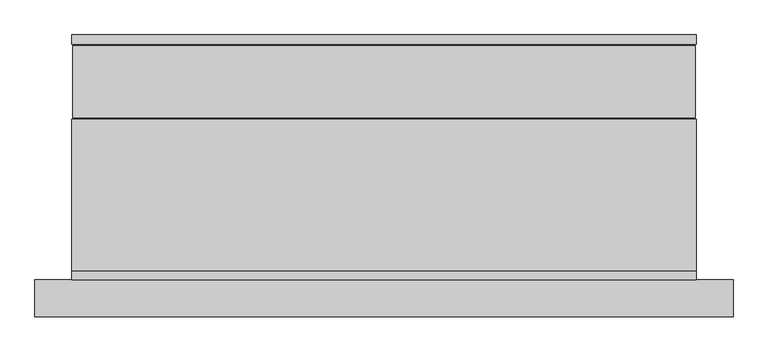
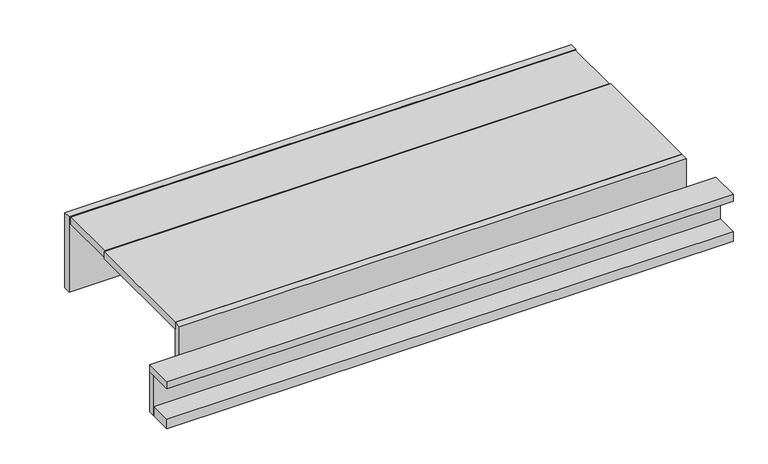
"""IFC4 building model written with IfcOpenShell, lengths in millimetres: proxy geometry, ELEVATE^ADMIN_51x23x8 SIDE WIRE WALL-LIFT COLUMN RIGHT."""

from ifc_helpers import new_model, si_unit, frame, origin, place, context, project, spatial, polyline, outline, extrude, source, transform, mapped, element, save


def generic_models_46a064e5(model_context):
    return source(origin(), model_context, "Body", "SweptSolid", [
        extrude(outline(polyline([(4267.2, 0.0), (2819.4, 0.0), (2819.4, 76.2), (4267.2, 76.2), (4267.2, 0.0)])), frame((0.0, 0.0, -19.05), z_axis=(0.0, 0.0, 1.0), x_axis=(1.0, 0.0, 0.0)), (0.0, 0.0, 1.0), 19.05),
        extrude(outline(polyline([(2897.98125, 411.95625), (2897.98125, 561.975), (4188.61875, 561.975), (4188.61875, 411.95625), (2897.98125, 411.95625)])), frame((0.0, 0.0, 57.15), z_axis=(0.0, 0.0, 1.0), x_axis=(1.0, 0.0, 0.0)), (0.0, 0.0, 1.0), 19.05),
        extrude(outline(polyline([(2819.4, 76.2), (4267.2, 76.2), (4267.2, 57.15), (2819.4, 57.15), (2819.4, 76.2)])), frame((0.0, 0.0, -127.0), z_axis=(0.0, 0.0, 1.0), x_axis=(1.0, 0.0, 0.0)), (0.0, 0.0, 1.0), 107.95),
        extrude(outline(polyline([(2819.4, 0.0), (2819.4, 57.15), (4267.2, 57.15), (4267.2, 0.0), (2819.4, 0.0)])), frame((0.0, 0.0, -127.0), z_axis=(0.0, 0.0, 1.0), x_axis=(1.0, 0.0, 0.0)), (0.0, 0.0, 1.0), 25.4),
        extrude(outline(polyline([(2895.6, 95.25), (2895.6, 409.575), (4191.0, 409.575), (4191.0, 95.25), (2895.6, 95.25)])), frame((0.0, 0.0, 57.15), z_axis=(0.0, 0.0, 1.0), x_axis=(1.0, 0.0, 0.0)), (0.0, 0.0, 1.0), 19.05),
        extrude(outline(polyline([(4191.0, 76.2), (2895.6, 76.2), (2895.6, 95.25), (4191.0, 95.25), (4191.0, 76.2)])), frame((0.0, 0.0, -127.0), z_axis=(0.0, 0.0, 1.0), x_axis=(1.0, 0.0, 0.0)), (0.0, 0.0, 1.0), 203.2),
        extrude(outline(polyline([(4191.0, 565.15), (2895.6, 565.15), (2895.6, 584.2), (4191.0, 584.2), (4191.0, 565.15)])), frame((0.0, 0.0, -127.0), z_axis=(0.0, 0.0, 1.0), x_axis=(1.0, 0.0, 0.0)), (0.0, 0.0, 1.0), 203.2),
    ])


if __name__ == "__main__":
    model = new_model("IFC4")
    model_context = context("Model", 3, world=origin())
    ifc_project = project(units=[si_unit("LENGTHUNIT", "METRE", prefix="MILLI")], contexts=[model_context])
    site = spatial("IfcSite", under=ifc_project)
    building = spatial("IfcBuilding", under=site)
    placement = place(None, origin())
    generic_models_shape = generic_models_46a064e5(model_context)
    element("IfcBuildingElementProxy", 1, Name="ELEVATE^ADMIN_51x23x8 SIDE WIRE WALL-LIFT COLUMN RIGHT", ObjectType="ELEVATE^ADMIN_51x23x8 SIDE WIRE WALL-LIFT COLUMN RIGHT", at=placement, inside=building, context=model_context, shape_type="MappedRepresentation", body=[
        mapped(generic_models_shape, transform((0.0, 0.0, 0.0), x_axis=(1.0, 0.0, 0.0), y_axis=(0.0, 1.0, 0.0), z_axis=(0.0, 0.0, 1.0))),
    ])
    save(model, "model.ifc")
